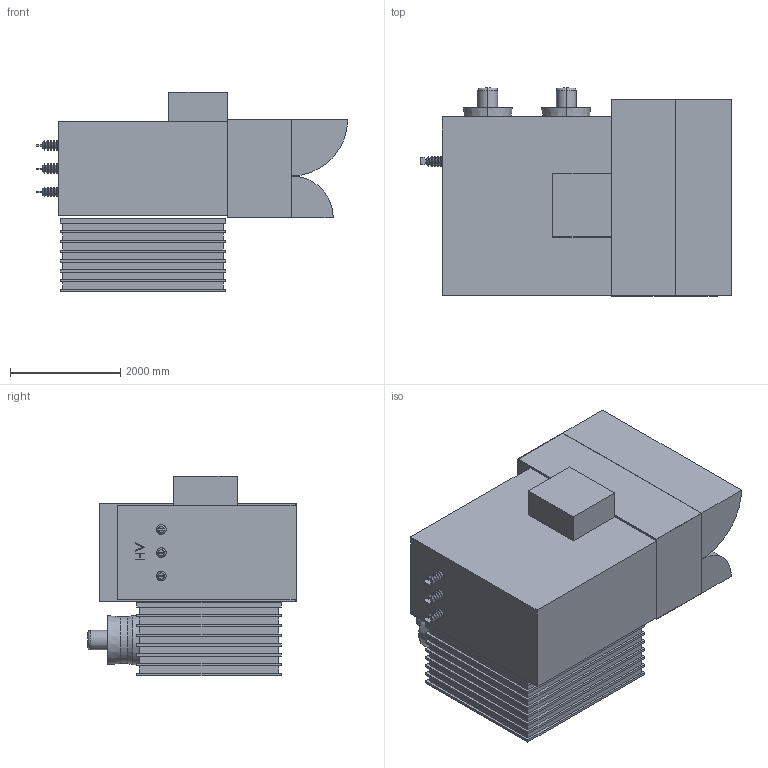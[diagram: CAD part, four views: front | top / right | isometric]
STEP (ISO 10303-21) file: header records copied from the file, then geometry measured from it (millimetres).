
FILE_DESCRIPTION (( 'STEP AP214' ), '1' );
FILE_NAME ('Open100 V2 Unit Auxiliary Transformer.STEP', '2020-08-24T14:48:06', ( '' ), ( '' ), 'SwSTEP 2.0', 'SolidWorks 2020', '' );
FILE_SCHEMA (( 'AUTOMOTIVE_DESIGN' ));
Length unit declared in the file: inch
Products named in the file (1): Open100 V2 Unit Auxiliary Transformer
Bounding box: 5645.15 x 3773.8 x 3616.45 mm (x, y, z)
Volume: 33034605514.3 mm3; surface area: 152059793.7 mm2
Topology: 11 solids, 11 shells, 482 faces, 1155 edges, 750 vertices
Faces by surface type: plane 368, cylinder 62, cone 48, torus 4
Entity records: 14099 total; most frequent: CARTESIAN_POINT 2388, DIRECTION 2333, ORIENTED_EDGE 2310, EDGE_CURVE 1155, LINE 943, VECTOR 943, VERTEX_POINT 750, AXIS2_PLACEMENT_3D 695
